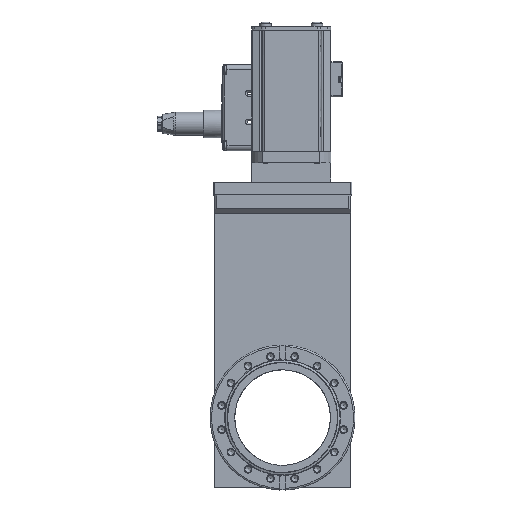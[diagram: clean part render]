
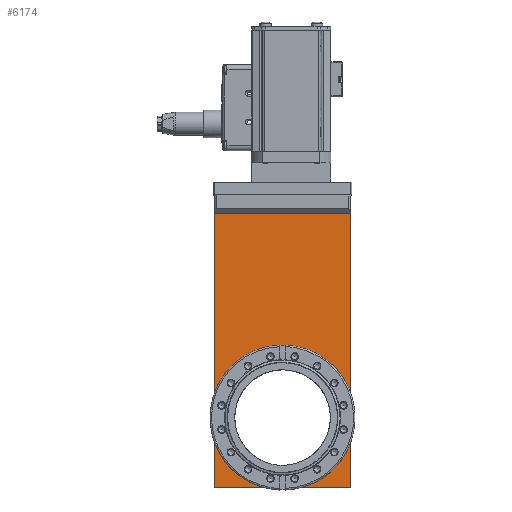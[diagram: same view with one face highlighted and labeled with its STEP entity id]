
A CAD part, top view. The second image highlights one B-rep face of the part: STEP entity #6174.
In plain terms, the highlighted free-form (B-spline) face has degree [1, 1] with [2, 2] control points.
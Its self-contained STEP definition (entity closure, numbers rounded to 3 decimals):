
#6036=CARTESIAN_POINT('V9',(50.05,0.0,0.0));
#6037=VERTEX_POINT('V9',#6036);
#6043=CARTESIAN_POINT('E13',(50.05,0.0,0.0));
#6044=CARTESIAN_POINT('E13',(50.05,-86.689,
   0.0));
#6045=CARTESIAN_POINT('E13',(-25.025,-43.345,
   0.0));
#6046=CARTESIAN_POINT('E13',(-100.1,0.,0.0)
   );
#6047=CARTESIAN_POINT('E13',(-25.025,43.345,
   0.0));
#6048=CARTESIAN_POINT('E13',(50.05,86.689,
   0.0));
#6049=CARTESIAN_POINT('E13',(50.05,0.0,0.0));
#6057=(BOUNDED_CURVE()B_SPLINE_CURVE(2,(#6043,#6044,#6045,#6046,
   #6047,#6048,#6049),.CIRCULAR_ARC.,.T.,.U.)
   B_SPLINE_CURVE_WITH_KNOTS((3,2,2,3),(0.0,0.333,
   0.667,1.0),.UNSPECIFIED.)CURVE()
   GEOMETRIC_REPRESENTATION_ITEM()RATIONAL_B_SPLINE_CURVE((1.0,
   0.5,1.0,0.5,1.0,0.5,1.0)
   )REPRESENTATION_ITEM('E13'));
#6058=EDGE_CURVE('E13',#6037,#6037,#6057,.T.);
#6069=CARTESIAN_POINT('V5',(-71.15,-233.0,0.0));
#6070=VERTEX_POINT('V5',#6069);
#6071=CARTESIAN_POINT('V1',(-71.15,73.05,
   0.0));
#6072=VERTEX_POINT('V1',#6071);
#6073=CARTESIAN_POINT('E5',(-71.15,-233.0,0.0));
#6074=CARTESIAN_POINT('E5',(-71.15,73.05,
   0.0));
#6075=QUASI_UNIFORM_CURVE('E5',1,(#6073,#6074),.POLYLINE_FORM.,.F.,
   .U.);
#6076=EDGE_CURVE('E5',#6070,#6072,#6075,.T.);
#6105=CARTESIAN_POINT('V7',(71.15,-233.0,0.0));
#6106=VERTEX_POINT('V7',#6105);
#6107=CARTESIAN_POINT('E8',(71.15,-233.0,0.0));
#6108=CARTESIAN_POINT('E8',(-71.15,-233.0,0.0));
#6109=QUASI_UNIFORM_CURVE('E8',1,(#6107,#6108),.POLYLINE_FORM.,.F.,
   .U.);
#6110=EDGE_CURVE('E8',#6106,#6070,#6109,.T.);
#6133=CARTESIAN_POINT('V2',(71.15,73.05,
   0.0));
#6134=VERTEX_POINT('V2',#6133);
#6135=CARTESIAN_POINT('E11',(71.15,-233.0,0.0));
#6136=CARTESIAN_POINT('E11',(71.15,73.05,
   0.0));
#6137=QUASI_UNIFORM_CURVE('E11',1,(#6135,#6136),.POLYLINE_FORM.,.F.,
   .U.);
#6138=EDGE_CURVE('E11',#6106,#6134,#6137,.T.);
#6156=CARTESIAN_POINT('F5',(-74.707,80.701,
   0.0));
#6157=CARTESIAN_POINT('F5',(74.707,80.701,
   0.0));
#6158=CARTESIAN_POINT('F5',(-74.707,-240.651,
   0.0));
#6159=CARTESIAN_POINT('F5',(74.707,-240.651,
   0.0));
#6160=B_SPLINE_SURFACE_WITH_KNOTS('F5',1,1,((#6156,#6158),(#6157,
   #6159)),.PLANE_SURF.,.F.,.F.,.U.,(2,2),(2,2),(0.0,1.0),(0.0,
   2.151),.UNSPECIFIED.);
#6161=ORIENTED_EDGE('E11',*,*,#6138,.T.);
#6162=CARTESIAN_POINT('E1',(-71.15,73.05,
   0.0));
#6163=CARTESIAN_POINT('E1',(71.15,73.05,
   0.0));
#6164=QUASI_UNIFORM_CURVE('E1',1,(#6162,#6163),.POLYLINE_FORM.,.F.,
   .U.);
#6165=EDGE_CURVE('E1',#6072,#6134,#6164,.T.);
#6166=ORIENTED_EDGE('E1',*,*,#6165,.F.);
#6167=ORIENTED_EDGE('E5',*,*,#6076,.F.);
#6168=ORIENTED_EDGE('E8',*,*,#6110,.F.);
#6169=EDGE_LOOP('F5',(#6161,#6166,#6167,#6168));
#6170=FACE_OUTER_BOUND('F5',#6169,.F.);
#6171=ORIENTED_EDGE('E13',*,*,#6058,.T.);
#6172=EDGE_LOOP('F5',(#6171));
#6173=FACE_BOUND('F5',#6172,.F.);
#6174=ADVANCED_FACE('F5',(#6170,#6173),#6160,.T.);
